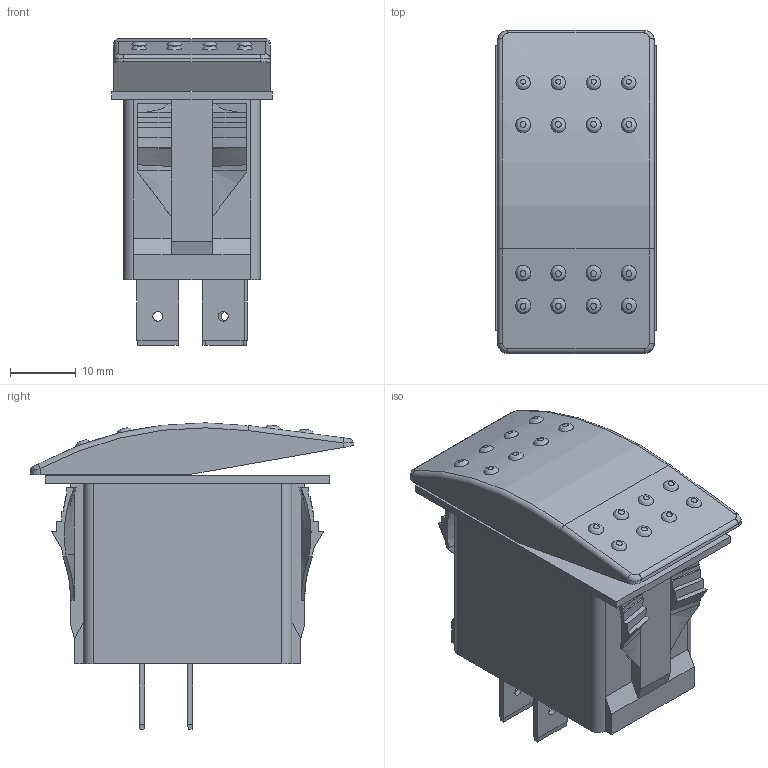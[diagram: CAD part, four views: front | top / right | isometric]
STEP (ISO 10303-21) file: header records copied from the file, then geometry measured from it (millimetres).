
FILE_DESCRIPTION(/* description */ (''),/* implementation_level */ '2;1');
FILE_NAME(/* name */ 'C:\Users\Hani\Desktop\work\SRD1-2B-DC-1-BNN\SRD1-2B-DC-1-BNN ROCKER SWITCH.stp',/* time_stamp */ '2020-05-14T18:07:25-07:00',/* author */ ('Hani'),/* organization */ (''),/* preprocessor_version */ 'ST-DEVELOPER v17',/* originating_system */ 'Autodesk Inventor 2019',/* authorisation */ '');
FILE_SCHEMA (('AUTOMOTIVE_DESIGN { 1 0 10303 214 3 1 1 }'));
Length unit declared in the file: inch
Products named in the file (1): SRD1-2B-DC-1-BNN ROCKER SWITCH
Bounding box: 24.38 x 49.2 x 46.62 mm (x, y, z)
Volume: 26532.3 mm3; surface area: 9501.8 mm2
Topology: 2 solids, 2 shells, 251 faces, 619 edges, 393 vertices
Faces by surface type: bspline 112, plane 107, cylinder 30, torus 2
Full cylindrical faces by diameter (mm): 1.499 x4
Entity records: 11596 total; most frequent: CARTESIAN_POINT 5879, ORIENTED_EDGE 1238, DIRECTION 848, EDGE_CURVE 619, LINE 448, VECTOR 448, VERTEX_POINT 393, EDGE_LOOP 280
